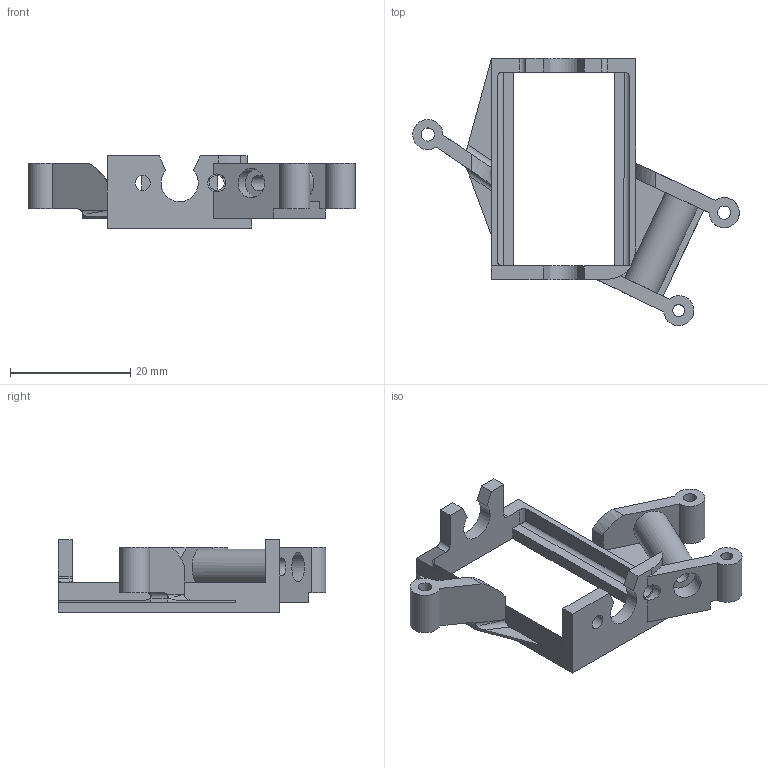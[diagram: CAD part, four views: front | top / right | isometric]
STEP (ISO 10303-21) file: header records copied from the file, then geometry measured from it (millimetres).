
FILE_DESCRIPTION(('Open CASCADE Model'),'2;1');
FILE_NAME('Open CASCADE Shape Model','2026-10-24T23:49:33',('Author'),( 'Open CASCADE'),'Open CASCADE STEP processor 7.9','Open CASCADE 7.9' ,'Unknown');
FILE_SCHEMA(('AUTOMOTIVE_DESIGN { 1 0 10303 214 1 1 1 1 }'));
Length unit declared in the file: millimetre
Products named in the file (1): Open CASCADE STEP translator 7.9 2
Bounding box: 54.26 x 44.43 x 12 mm (x, y, z)
Volume: 3287.9 mm3; surface area: 4302.7 mm2
Topology: 1 solids, 1 shells, 89 faces, 256 edges, 169 vertices
Faces by surface type: plane 59, cylinder 25, bspline 5
Full cylindrical faces by diameter (mm): 2 x1, 2.2 x2, 2.5 x2, 2.6 x1, 3 x1, 4.85 x2
Entity records: 8399 total; most frequent: CARTESIAN_POINT 3634, DIRECTION 764, ORIENTED_EDGE 512, PCURVE 512, DEFINITIONAL_REPRESENTATION 512, LINE 488, VECTOR 488, EDGE_CURVE 256
